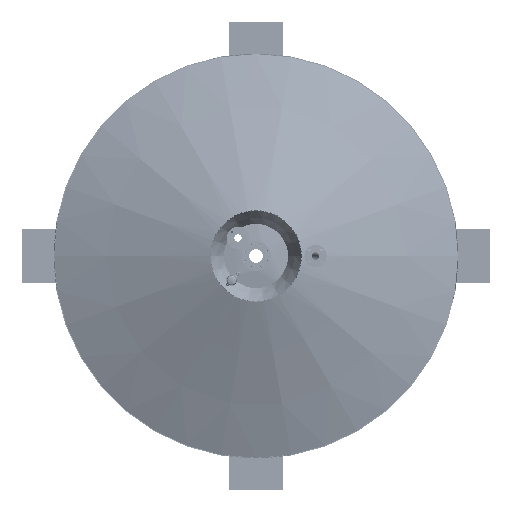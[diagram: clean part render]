
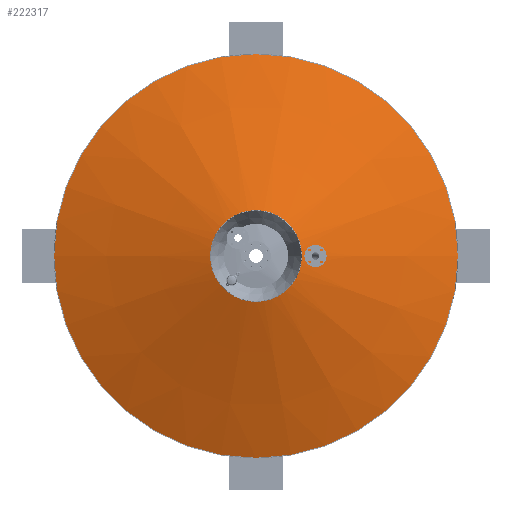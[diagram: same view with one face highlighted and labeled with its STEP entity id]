
A CAD part, front view. The second image highlights one B-rep face of the part: STEP entity #222317.
In plain terms, the highlighted conical face has half-angle 70 degrees and reference radius 1209.39 mm.
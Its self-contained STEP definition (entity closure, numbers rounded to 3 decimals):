
#222275=CARTESIAN_POINT('',(341.508,-744.956,0.));
#222276=VERTEX_POINT('',#222275);
#222277=CARTESIAN_POINT('',(0.0,-744.956,0.0));
#222278=DIRECTION('',(0.0,1.0,0.0));
#222279=DIRECTION('',(1.0,0.0,0.0));
#222280=AXIS2_PLACEMENT_3D('',#222277,#222278,#222279);
#222281=CIRCLE('',#222280,341.508);
#222282=EDGE_CURVE('',#222276,#222276,#222281,.T.);
#222298=CARTESIAN_POINT('',(0.0,-429.073,0.0));
#222299=DIRECTION('',(0.0,1.0,0.0));
#222300=DIRECTION('',(1.0,0.0,0.0));
#222301=AXIS2_PLACEMENT_3D('',#222298,#222299,#222300);
#222302=CONICAL_SURFACE('',#222301,1209.39,70.);
#222303=ORIENTED_EDGE('',*,*,#222282,.T.);
#222304=EDGE_LOOP('',(#222303));
#222305=FACE_OUTER_BOUND('',#222304,.T.);
#222306=CARTESIAN_POINT('',(1498.684,-323.778,0.));
#222307=VERTEX_POINT('',#222306);
#222308=CARTESIAN_POINT('',(0.0,-323.778,0.0));
#222309=DIRECTION('',(0.0,1.0,0.0));
#222310=DIRECTION('',(1.0,0.0,0.0));
#222311=AXIS2_PLACEMENT_3D('',#222308,#222309,#222310);
#222312=CIRCLE('',#222311,1498.684);
#222313=EDGE_CURVE('',#222307,#222307,#222312,.T.);
#222314=ORIENTED_EDGE('',*,*,#222313,.F.);
#222315=EDGE_LOOP('',(#222314));
#222316=FACE_BOUND('',#222315,.T.);
#222317=ADVANCED_FACE('',(#222305,#222316),#222302,.T.);
